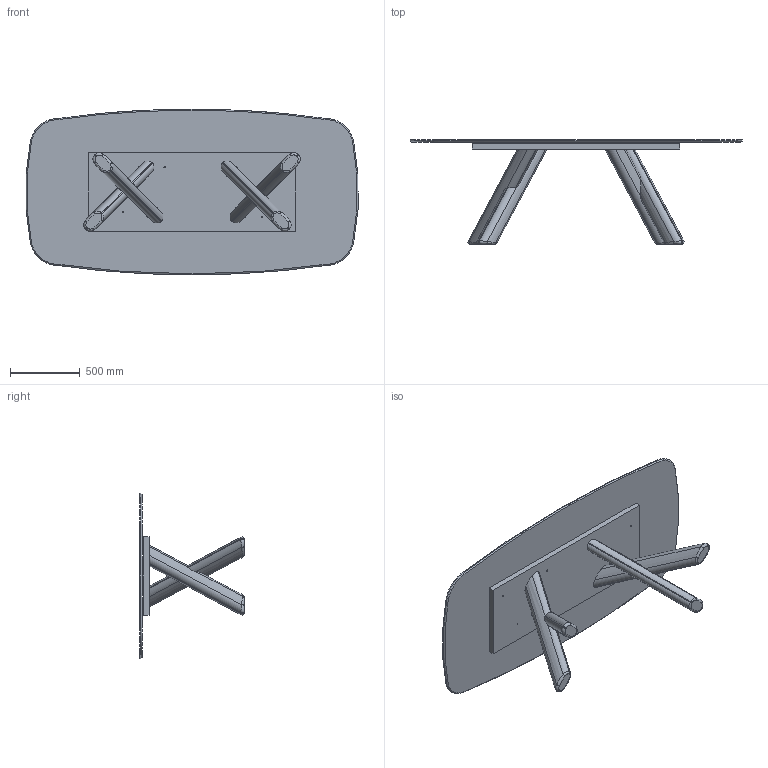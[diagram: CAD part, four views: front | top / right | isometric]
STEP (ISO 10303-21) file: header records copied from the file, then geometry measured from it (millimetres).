
FILE_DESCRIPTION (( 'STEP AP203' ), '1' );
FILE_NAME ('CN42C_CANOVA_top ceramica 239x119x75h sag.STEP', '2025-04-15T07:05:27', ( '' ), ( '' ), 'SwSTEP 2.0', 'SolidWorks 2022', '' );
FILE_SCHEMA (( 'CONFIG_CONTROL_DESIGN' ));
Length unit declared in the file: millimetre
Products named in the file (5): CAMP_00056-00-Assieme Basamento con gambe in legno incrociate_leggero; CN42C_CANOVA_top ceramica 239x119x75h sag; PIANI_modello 3D x web_Ceramica 239x119 sag; CAMP_00057-00-Gamba in legno Esterna_leggero; CAMP_00058-00-Gamba in legno Interna_leggero
Assembly tree (5 placements, depth 3):
  CN42C_CANOVA_top ceramica 239x119x75h sag
    PIANI_modello 3D x web_Ceramica 239x119 sag
    CAMP_00056-00-Assieme Basamento con gambe in legno incrociate_leggero  x2
      CAMP_00057-00-Gamba in legno Esterna_leggero
      CAMP_00058-00-Gamba in legno Interna_leggero
Bounding box: 2382.15 x 748 x 1190 mm (x, y, z)
Volume: 113234348.9 mm3; surface area: 8611049.5 mm2
Topology: 6 solids, 6 shells, 174 faces, 420 edges, 264 vertices
Faces by surface type: cylinder 99, bspline 36, plane 22, cone 17
Entity records: 4626 total; most frequent: CARTESIAN_POINT 1640, ORIENTED_EDGE 538, DIRECTION 495, EDGE_CURVE 269, AXIS2_PLACEMENT_3D 203, VERTEX_POINT 170, EDGE_LOOP 133, FACE_OUTER_BOUND 110
